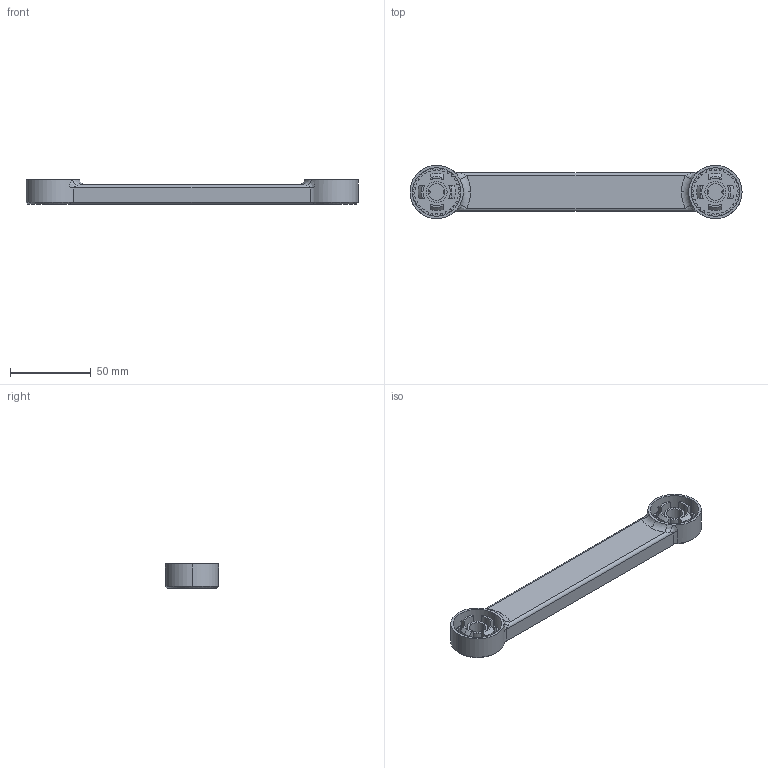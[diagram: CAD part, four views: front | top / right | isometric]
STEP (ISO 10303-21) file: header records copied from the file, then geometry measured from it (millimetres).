
FILE_DESCRIPTION (( 'STEP AP214' ), '1' );
FILE_NAME ('Arm B.STEP', '2025-10-25T21:54:01', ( '' ), ( '' ), 'SwSTEP 2.0', 'SolidWorks 2025', '' );
FILE_SCHEMA (( 'AUTOMOTIVE_DESIGN' ));
Length unit declared in the file: millimetre
Products named in the file (3): Arm B; modifica twist lock interno; Cilindri esterni braccio
Assembly tree (3 placements, depth 2):
  Arm B
    modifica twist lock interno  x2
    Cilindri esterni braccio
Bounding box: 205.65 x 32.99 x 15 mm (x, y, z)
Volume: 52737.1 mm3; surface area: 24228.8 mm2
Topology: 3 solids, 3 shells, 366 faces, 1022 edges, 676 vertices
Faces by surface type: plane 216, cylinder 108, cone 22, sphere 8, bspline 8, torus 4
Entity records: 12146 total; most frequent: CARTESIAN_POINT 2651, DIRECTION 2014, ORIENTED_EDGE 2000, EDGE_CURVE 1000, AXIS2_PLACEMENT_3D 721, VERTEX_POINT 662, LINE 572, VECTOR 572
